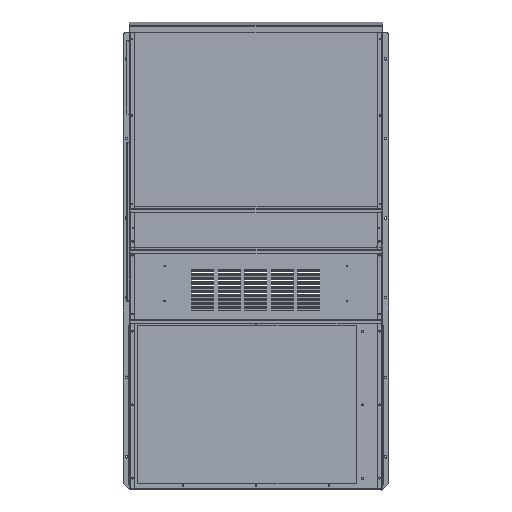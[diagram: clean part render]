
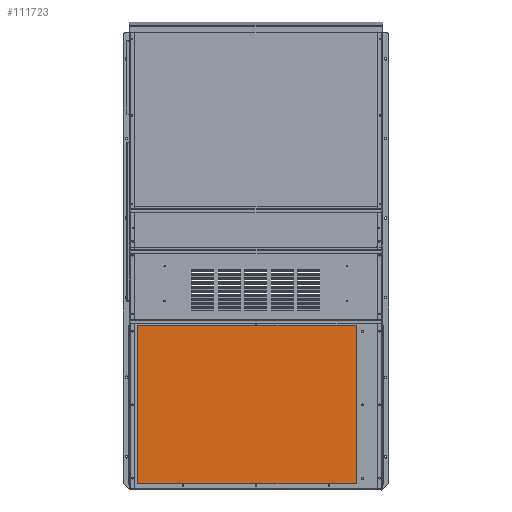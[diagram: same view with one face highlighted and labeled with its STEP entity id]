
A CAD part, top view. The second image highlights one B-rep face of the part: STEP entity #111723.
In plain terms, the highlighted planar face has unit normal (0, 0, 1).
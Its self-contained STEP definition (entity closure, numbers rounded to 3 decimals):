
#2944 = EDGE_LOOP ( 'NONE', ( #134669, #127871, #12382, #107970 ) ) ;
#3616 = CARTESIAN_POINT ( 'NONE',  ( -3.858, 0.149, 0.149 ) ) ;
#5823 = VECTOR ( 'NONE', #90763, 39.37 ) ;
#12382 = ORIENTED_EDGE ( 'NONE', *, *, #117465, .F. ) ;
#14561 = FACE_OUTER_BOUND ( 'NONE', #2944, .T. ) ;
#16875 = CARTESIAN_POINT ( 'NONE',  ( -3.858, 24.047, 0.149 ) ) ;
#23447 = VERTEX_POINT ( 'NONE', #3616 ) ;
#26735 = VERTEX_POINT ( 'NONE', #100519 ) ;
#30521 = LINE ( 'NONE', #122047, #55370 ) ;
#33059 = DIRECTION ( 'NONE',  ( 0., 1., 0. ) ) ;
#33224 = CARTESIAN_POINT ( 'NONE',  ( -36.784, 24.047, 0.149 ) ) ;
#37602 = DIRECTION ( 'NONE',  ( 0., 1., 0. ) ) ;
#38227 = VERTEX_POINT ( 'NONE', #88013 ) ;
#46741 = EDGE_CURVE ( 'NONE', #26735, #118496, #30521, .T. ) ;
#51838 = VECTOR ( 'NONE', #97186, 39.37 ) ;
#54708 = CARTESIAN_POINT ( 'NONE',  ( -36.784, 0.149, 0.149 ) ) ;
#55370 = VECTOR ( 'NONE', #37602, 39.37 ) ;
#75163 = CARTESIAN_POINT ( 'NONE',  ( -3.858, 24.047, 0.149 ) ) ;
#79976 = LINE ( 'NONE', #54708, #51838 ) ;
#85795 = PLANE ( 'NONE',  #113657 ) ;
#86738 = LINE ( 'NONE', #16875, #5823 ) ;
#88013 = CARTESIAN_POINT ( 'NONE',  ( -3.858, 24.047, 0.149 ) ) ;
#90763 = DIRECTION ( 'NONE',  ( 0., -1., 0. ) ) ;
#96371 = DIRECTION ( 'NONE',  ( 0., 0., -1. ) ) ;
#97186 = DIRECTION ( 'NONE',  ( -1., 0., 0. ) ) ;
#100519 = CARTESIAN_POINT ( 'NONE',  ( -36.784, 0.149, 0.149 ) ) ;
#101603 = EDGE_CURVE ( 'NONE', #23447, #26735, #79976, .T. ) ;
#106304 = LINE ( 'NONE', #33224, #134456 ) ;
#107069 = DIRECTION ( 'NONE',  ( 1., 0., 0. ) ) ;
#107970 = ORIENTED_EDGE ( 'NONE', *, *, #131771, .F. ) ;
#109394 = CARTESIAN_POINT ( 'NONE',  ( -36.784, 24.047, 0.149 ) ) ;
#111723 = ADVANCED_FACE ( 'NONE', ( #14561 ), #85795, .F. ) ;
#113657 = AXIS2_PLACEMENT_3D ( 'NONE', #75163, #96371, #33059 ) ;
#117465 = EDGE_CURVE ( 'NONE', #38227, #23447, #86738, .T. ) ;
#118496 = VERTEX_POINT ( 'NONE', #109394 ) ;
#122047 = CARTESIAN_POINT ( 'NONE',  ( -36.784, 24.047, 0.149 ) ) ;
#127871 = ORIENTED_EDGE ( 'NONE', *, *, #101603, .F. ) ;
#131771 = EDGE_CURVE ( 'NONE', #118496, #38227, #106304, .T. ) ;
#134456 = VECTOR ( 'NONE', #107069, 39.37 ) ;
#134669 = ORIENTED_EDGE ( 'NONE', *, *, #46741, .F. ) ;
